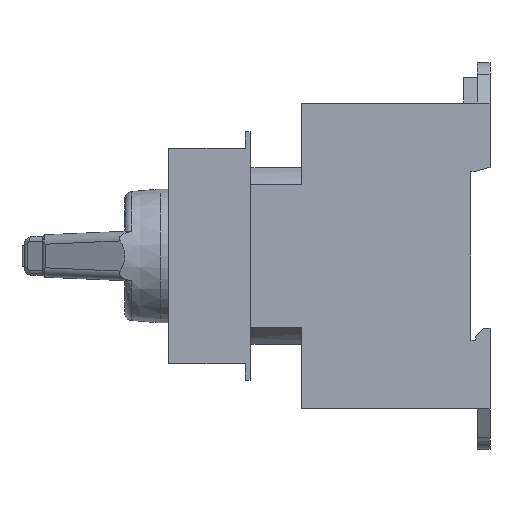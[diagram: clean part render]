
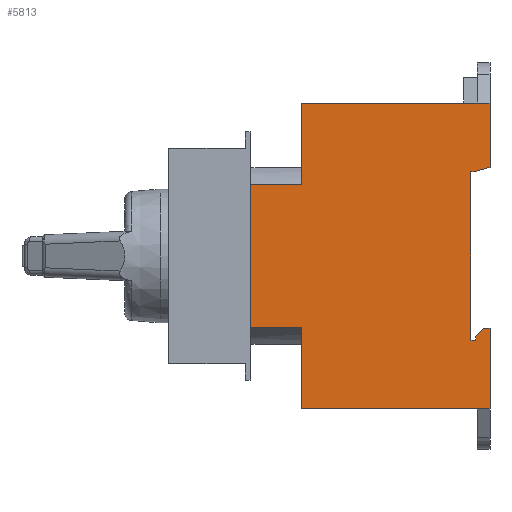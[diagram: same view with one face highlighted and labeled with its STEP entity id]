
A CAD part, left-side view. The second image highlights one B-rep face of the part: STEP entity #5813.
In plain terms, the highlighted planar face has unit normal (-1, 0, 0).
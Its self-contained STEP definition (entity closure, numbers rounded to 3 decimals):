
#136 = VERTEX_POINT ( 'NONE', #150 ) ;
#150 = CARTESIAN_POINT ( 'NONE',  ( -24., 0., 18.534 ) ) ;
#185 = VERTEX_POINT ( 'NONE', #7759 ) ;
#220 = VECTOR ( 'NONE', #3458, 1000. ) ;
#325 = CARTESIAN_POINT ( 'NONE',  ( -24., 0., 32. ) ) ;
#357 = CARTESIAN_POINT ( 'NONE',  ( -24., 50.2, -15. ) ) ;
#579 = LINE ( 'NONE', #325, #2555 ) ;
#706 = LINE ( 'NONE', #4892, #4948 ) ;
#742 = VERTEX_POINT ( 'NONE', #966 ) ;
#828 = VECTOR ( 'NONE', #8664, 1000. ) ;
#857 = DIRECTION ( 'NONE',  ( 0., -1., 0. ) ) ;
#914 = VECTOR ( 'NONE', #7957, 1000. ) ;
#947 = VERTEX_POINT ( 'NONE', #2516 ) ;
#966 = CARTESIAN_POINT ( 'NONE',  ( -24., 39.4, 15. ) ) ;
#1062 = ORIENTED_EDGE ( 'NONE', *, *, #3774, .F. ) ;
#1082 = EDGE_CURVE ( 'NONE', #6995, #1146, #9302, .T. ) ;
#1121 = VERTEX_POINT ( 'NONE', #1409 ) ;
#1142 = VECTOR ( 'NONE', #857, 1000. ) ;
#1146 = VERTEX_POINT ( 'NONE', #8208 ) ;
#1323 = ORIENTED_EDGE ( 'NONE', *, *, #4981, .F. ) ;
#1364 = ORIENTED_EDGE ( 'NONE', *, *, #4277, .F. ) ;
#1400 = LINE ( 'NONE', #9745, #10095 ) ;
#1403 = VERTEX_POINT ( 'NONE', #8042 ) ;
#1409 = CARTESIAN_POINT ( 'NONE',  ( -24., 0., -32. ) ) ;
#1542 = CARTESIAN_POINT ( 'NONE',  ( -24., 39.4, 32. ) ) ;
#1646 = DIRECTION ( 'NONE',  ( 0., -1., 0. ) ) ;
#1746 = EDGE_CURVE ( 'NONE', #7953, #136, #6279, .T. ) ;
#1757 = VECTOR ( 'NONE', #2184, 1000. ) ;
#2087 = CARTESIAN_POINT ( 'NONE',  ( -24., 3.3, 17.65 ) ) ;
#2147 = EDGE_CURVE ( 'NONE', #10288, #1403, #4144, .T. ) ;
#2184 = DIRECTION ( 'NONE',  ( 0., 0., -1. ) ) ;
#2204 = ORIENTED_EDGE ( 'NONE', *, *, #8318, .F. ) ;
#2417 = LINE ( 'NONE', #10340, #6652 ) ;
#2516 = CARTESIAN_POINT ( 'NONE',  ( -24., 3., -16.85 ) ) ;
#2520 = ORIENTED_EDGE ( 'NONE', *, *, #8650, .F. ) ;
#2555 = VECTOR ( 'NONE', #6300, 1000. ) ;
#2724 = EDGE_CURVE ( 'NONE', #185, #947, #2417, .T. ) ;
#2736 = CARTESIAN_POINT ( 'NONE',  ( -24., 33.394, 9.586 ) ) ;
#2775 = CARTESIAN_POINT ( 'NONE',  ( -24., 39.4, 32. ) ) ;
#2868 = CARTESIAN_POINT ( 'NONE',  ( -24., 39.4, 32. ) ) ;
#2936 = CARTESIAN_POINT ( 'NONE',  ( -24., 39.4, -15. ) ) ;
#3053 = VERTEX_POINT ( 'NONE', #357 ) ;
#3101 = LINE ( 'NONE', #2775, #828 ) ;
#3309 = LINE ( 'NONE', #8586, #10019 ) ;
#3458 = DIRECTION ( 'NONE',  ( 0., 1., 0. ) ) ;
#3577 = DIRECTION ( 'NONE',  ( 0., 0.966, -0.259 ) ) ;
#3707 = EDGE_CURVE ( 'NONE', #1403, #185, #10436, .T. ) ;
#3774 = EDGE_CURVE ( 'NONE', #1121, #6995, #7655, .T. ) ;
#3848 = CARTESIAN_POINT ( 'NONE',  ( -24., -3.225, -10.625 ) ) ;
#3857 = CARTESIAN_POINT ( 'NONE',  ( -24., 0., 32. ) ) ;
#3895 = ORIENTED_EDGE ( 'NONE', *, *, #2147, .F. ) ;
#3971 = ORIENTED_EDGE ( 'NONE', *, *, #7855, .F. ) ;
#4038 = DIRECTION ( 'NONE',  ( 0., 1., 0. ) ) ;
#4127 = ORIENTED_EDGE ( 'NONE', *, *, #6399, .F. ) ;
#4144 = LINE ( 'NONE', #9067, #10610 ) ;
#4277 = EDGE_CURVE ( 'NONE', #947, #10792, #6752, .T. ) ;
#4449 = DIRECTION ( 'NONE',  ( 0., 0., 1. ) ) ;
#4644 = EDGE_CURVE ( 'NONE', #5014, #742, #3309, .T. ) ;
#4844 = VECTOR ( 'NONE', #6337, 1000. ) ;
#4892 = CARTESIAN_POINT ( 'NONE',  ( -24., 50.2, -15. ) ) ;
#4948 = VECTOR ( 'NONE', #4038, 1000. ) ;
#4981 = EDGE_CURVE ( 'NONE', #3053, #5014, #5683, .T. ) ;
#5014 = VERTEX_POINT ( 'NONE', #8406 ) ;
#5113 = LINE ( 'NONE', #7690, #1142 ) ;
#5118 = CARTESIAN_POINT ( 'NONE',  ( -24., 39.4, -17.65 ) ) ;
#5204 = DIRECTION ( 'NONE',  ( 0., -1., 0. ) ) ;
#5338 = VECTOR ( 'NONE', #3577, 1000. ) ;
#5609 = LINE ( 'NONE', #2736, #5338 ) ;
#5647 = AXIS2_PLACEMENT_3D ( 'NONE', #1542, #10885, #5830 ) ;
#5683 = LINE ( 'NONE', #9222, #7635 ) ;
#5813 = ADVANCED_FACE ( 'NONE', ( #7753 ), #7454, .T. ) ;
#5830 = DIRECTION ( 'NONE',  ( 0., 0., 1. ) ) ;
#5847 = CARTESIAN_POINT ( 'NONE',  ( -24., 1.3, -15.15 ) ) ;
#5895 = ORIENTED_EDGE ( 'NONE', *, *, #6196, .F. ) ;
#5918 = ORIENTED_EDGE ( 'NONE', *, *, #3707, .F. ) ;
#6196 = EDGE_CURVE ( 'NONE', #10792, #7906, #5113, .T. ) ;
#6231 = VECTOR ( 'NONE', #1646, 1000. ) ;
#6279 = LINE ( 'NONE', #3857, #1757 ) ;
#6300 = DIRECTION ( 'NONE',  ( 0., 0., -1. ) ) ;
#6337 = DIRECTION ( 'NONE',  ( 0., 0., 1. ) ) ;
#6399 = EDGE_CURVE ( 'NONE', #9248, #7953, #1400, .T. ) ;
#6415 = DIRECTION ( 'NONE',  ( 0., -0.707, 0.707 ) ) ;
#6652 = VECTOR ( 'NONE', #4449, 1000. ) ;
#6730 = LINE ( 'NONE', #8512, #220 ) ;
#6742 = ORIENTED_EDGE ( 'NONE', *, *, #8356, .F. ) ;
#6752 = LINE ( 'NONE', #3848, #10715 ) ;
#6995 = VERTEX_POINT ( 'NONE', #7815 ) ;
#7264 = DIRECTION ( 'NONE',  ( 0., -1., 0. ) ) ;
#7386 = DIRECTION ( 'NONE',  ( 0., 0., -1. ) ) ;
#7454 = PLANE ( 'NONE',  #5647 ) ;
#7536 = DIRECTION ( 'NONE',  ( 0., 0., 1. ) ) ;
#7635 = VECTOR ( 'NONE', #7536, 1000. ) ;
#7655 = LINE ( 'NONE', #8800, #914 ) ;
#7690 = CARTESIAN_POINT ( 'NONE',  ( -24., 39.4, -15.15 ) ) ;
#7753 = FACE_OUTER_BOUND ( 'NONE', #9540, .T. ) ;
#7759 = CARTESIAN_POINT ( 'NONE',  ( -24., 3., -17.65 ) ) ;
#7815 = CARTESIAN_POINT ( 'NONE',  ( -24., 39.4, -32. ) ) ;
#7855 = EDGE_CURVE ( 'NONE', #7906, #1121, #579, .T. ) ;
#7906 = VERTEX_POINT ( 'NONE', #10799 ) ;
#7953 = VERTEX_POINT ( 'NONE', #10833 ) ;
#7957 = DIRECTION ( 'NONE',  ( 0., 1., 0. ) ) ;
#8042 = CARTESIAN_POINT ( 'NONE',  ( -24., 4., -17.65 ) ) ;
#8047 = ORIENTED_EDGE ( 'NONE', *, *, #2724, .F. ) ;
#8208 = CARTESIAN_POINT ( 'NONE',  ( -24., 39.4, -15. ) ) ;
#8318 = EDGE_CURVE ( 'NONE', #136, #8455, #5609, .T. ) ;
#8356 = EDGE_CURVE ( 'NONE', #742, #9248, #3101, .T. ) ;
#8406 = CARTESIAN_POINT ( 'NONE',  ( -24., 50.2, 15. ) ) ;
#8407 = ORIENTED_EDGE ( 'NONE', *, *, #1082, .F. ) ;
#8455 = VERTEX_POINT ( 'NONE', #2087 ) ;
#8512 = CARTESIAN_POINT ( 'NONE',  ( -24., 39.4, 17.65 ) ) ;
#8586 = CARTESIAN_POINT ( 'NONE',  ( -24., 39.4, 15. ) ) ;
#8650 = EDGE_CURVE ( 'NONE', #1146, #3053, #706, .T. ) ;
#8664 = DIRECTION ( 'NONE',  ( 0., 0., 1. ) ) ;
#8800 = CARTESIAN_POINT ( 'NONE',  ( -24., 0., -32. ) ) ;
#9067 = CARTESIAN_POINT ( 'NONE',  ( -24., 4., 32. ) ) ;
#9222 = CARTESIAN_POINT ( 'NONE',  ( -24., 50.2, 15. ) ) ;
#9248 = VERTEX_POINT ( 'NONE', #2868 ) ;
#9302 = LINE ( 'NONE', #2936, #4844 ) ;
#9540 = EDGE_LOOP ( 'NONE', ( #2204, #10038, #4127, #6742, #10514, #1323, #2520, #8407, #1062, #3971, #5895, #1364, #8047, #5918, #3895, #10044 ) ) ;
#9745 = CARTESIAN_POINT ( 'NONE',  ( -24., 0., 32. ) ) ;
#10019 = VECTOR ( 'NONE', #5204, 1000. ) ;
#10038 = ORIENTED_EDGE ( 'NONE', *, *, #1746, .F. ) ;
#10044 = ORIENTED_EDGE ( 'NONE', *, *, #10909, .F. ) ;
#10095 = VECTOR ( 'NONE', #7264, 1000. ) ;
#10288 = VERTEX_POINT ( 'NONE', #10913 ) ;
#10340 = CARTESIAN_POINT ( 'NONE',  ( -24., 3., 32. ) ) ;
#10436 = LINE ( 'NONE', #5118, #6231 ) ;
#10514 = ORIENTED_EDGE ( 'NONE', *, *, #4644, .F. ) ;
#10610 = VECTOR ( 'NONE', #7386, 1000. ) ;
#10715 = VECTOR ( 'NONE', #6415, 1000. ) ;
#10792 = VERTEX_POINT ( 'NONE', #5847 ) ;
#10799 = CARTESIAN_POINT ( 'NONE',  ( -24., 0., -15.15 ) ) ;
#10833 = CARTESIAN_POINT ( 'NONE',  ( -24., 0., 32. ) ) ;
#10885 = DIRECTION ( 'NONE',  ( -1., 0., 0. ) ) ;
#10909 = EDGE_CURVE ( 'NONE', #8455, #10288, #6730, .T. ) ;
#10913 = CARTESIAN_POINT ( 'NONE',  ( -24., 4., 17.65 ) ) ;
